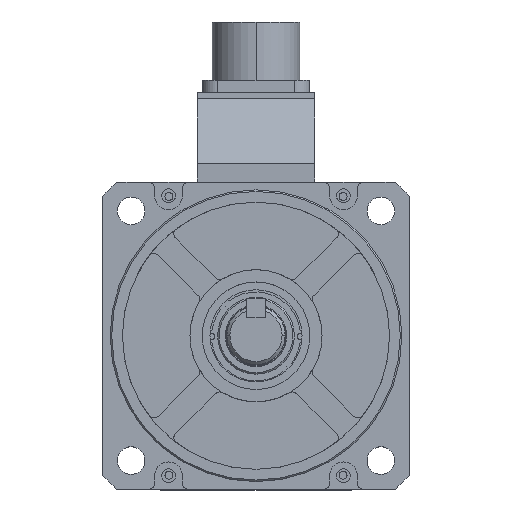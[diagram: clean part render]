
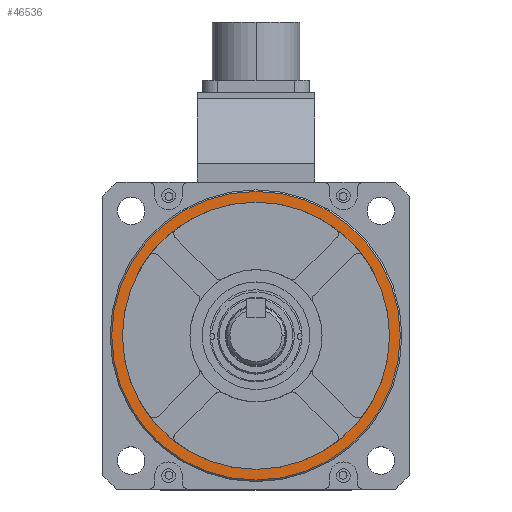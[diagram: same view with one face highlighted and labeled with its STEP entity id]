
A CAD part, top view. The second image highlights one B-rep face of the part: STEP entity #46536.
In plain terms, the highlighted planar face has unit normal (0, 0, 1).
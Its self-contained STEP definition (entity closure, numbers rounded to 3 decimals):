
#1699 = AXIS2_PLACEMENT_3D ( 'NONE', #49953, #17764, #31753 ) ;
#1971 = VERTEX_POINT ( 'NONE', #50268 ) ;
#2835 = CARTESIAN_POINT ( 'NONE',  ( -43.5, 0., 21.8 ) ) ;
#3751 = FACE_OUTER_BOUND ( 'NONE', #48305, .T. ) ;
#9233 = AXIS2_PLACEMENT_3D ( 'NONE', #37539, #46793, #15500 ) ;
#12071 = CIRCLE ( 'NONE', #9233, 43.5 ) ;
#12543 = AXIS2_PLACEMENT_3D ( 'NONE', #29796, #33692, #42651 ) ;
#13340 = DIRECTION ( 'NONE',  ( -1., 0., 0. ) ) ;
#15500 = DIRECTION ( 'NONE',  ( 1., 0., 0. ) ) ;
#17764 = DIRECTION ( 'NONE',  ( 0., 0., -1. ) ) ;
#17811 = CARTESIAN_POINT ( 'NONE',  ( 0., 0., 21.8 ) ) ;
#19174 = AXIS2_PLACEMENT_3D ( 'NONE', #22291, #21993, #13340 ) ;
#20273 = ORIENTED_EDGE ( 'NONE', *, *, #55641, .T. ) ;
#21993 = DIRECTION ( 'NONE',  ( 0., 0., 1. ) ) ;
#22291 = CARTESIAN_POINT ( 'NONE',  ( 0., 0., 21.8 ) ) ;
#26681 = VERTEX_POINT ( 'NONE', #39468 ) ;
#29796 = CARTESIAN_POINT ( 'NONE',  ( 0., 0., 21.8 ) ) ;
#31753 = DIRECTION ( 'NONE',  ( 0., -1., 0. ) ) ;
#33138 = EDGE_LOOP ( 'NONE', ( #49920, #47179 ) ) ;
#33505 = EDGE_CURVE ( 'NONE', #1971, #34931, #55349, .T. ) ;
#33692 = DIRECTION ( 'NONE',  ( 0., 0., 1. ) ) ;
#34931 = VERTEX_POINT ( 'NONE', #38919 ) ;
#36229 = FACE_BOUND ( 'NONE', #33138, .T. ) ;
#37539 = CARTESIAN_POINT ( 'NONE',  ( 0., 0., 21.8 ) ) ;
#38248 = CIRCLE ( 'NONE', #12543, 43.5 ) ;
#38919 = CARTESIAN_POINT ( 'NONE',  ( -47., 0., 21.8 ) ) ;
#39243 = EDGE_CURVE ( 'NONE', #56548, #26681, #38248, .T. ) ;
#39468 = CARTESIAN_POINT ( 'NONE',  ( 43.5, 0., 21.8 ) ) ;
#40452 = DIRECTION ( 'NONE',  ( 0., 0., 1. ) ) ;
#42651 = DIRECTION ( 'NONE',  ( 1., 0., 0. ) ) ;
#44586 = EDGE_CURVE ( 'NONE', #26681, #56548, #12071, .T. ) ;
#45148 = CIRCLE ( 'NONE', #46129, 47. ) ;
#46129 = AXIS2_PLACEMENT_3D ( 'NONE', #17811, #40452, #50006 ) ;
#46536 = ADVANCED_FACE ( 'NONE', ( #36229, #3751 ), #58615, .F. ) ;
#46793 = DIRECTION ( 'NONE',  ( 0., 0., 1. ) ) ;
#47179 = ORIENTED_EDGE ( 'NONE', *, *, #39243, .F. ) ;
#48305 = EDGE_LOOP ( 'NONE', ( #20273, #53976 ) ) ;
#49920 = ORIENTED_EDGE ( 'NONE', *, *, #44586, .F. ) ;
#49953 = CARTESIAN_POINT ( 'NONE',  ( 0., 0., 21.8 ) ) ;
#50006 = DIRECTION ( 'NONE',  ( -1., 0., 0. ) ) ;
#50268 = CARTESIAN_POINT ( 'NONE',  ( 47., 0., 21.8 ) ) ;
#53976 = ORIENTED_EDGE ( 'NONE', *, *, #33505, .T. ) ;
#55349 = CIRCLE ( 'NONE', #19174, 47. ) ;
#55641 = EDGE_CURVE ( 'NONE', #34931, #1971, #45148, .T. ) ;
#56548 = VERTEX_POINT ( 'NONE', #2835 ) ;
#58615 = PLANE ( 'NONE',  #1699 ) ;
